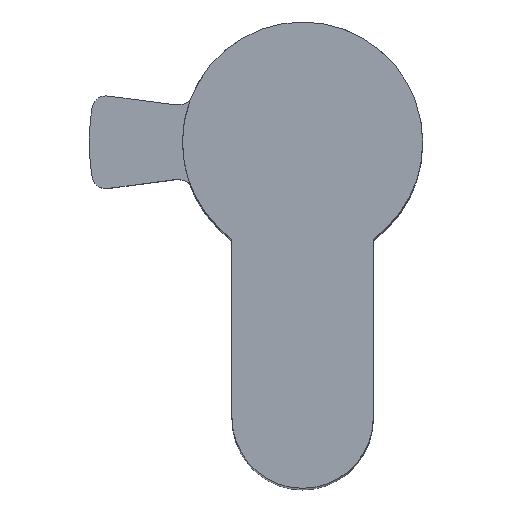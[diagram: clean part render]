
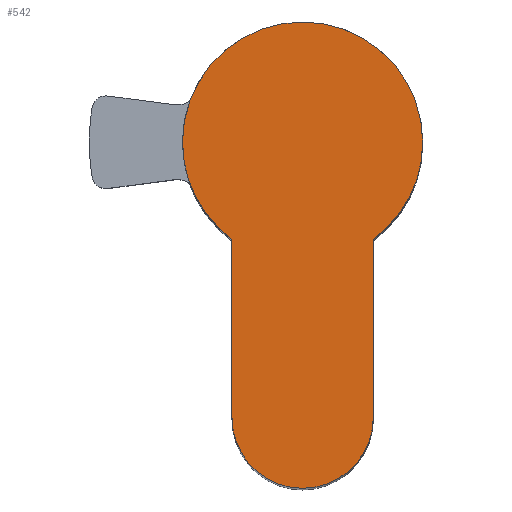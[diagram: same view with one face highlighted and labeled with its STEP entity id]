
A CAD part, top view. The second image highlights one B-rep face of the part: STEP entity #542.
In plain terms, the highlighted planar face has unit normal (0, 0, 1).
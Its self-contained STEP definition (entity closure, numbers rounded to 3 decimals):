
#57 = DIRECTION ( 'NONE',  ( 0., -1., 0. ) ) ;
#94 = CARTESIAN_POINT ( 'NONE',  ( 5., -19.5, 10. ) ) ;
#122 = DIRECTION ( 'NONE',  ( 1., 0., 0. ) ) ;
#158 = CIRCLE ( 'NONE', #562, 8.5 ) ;
#180 = ORIENTED_EDGE ( 'NONE', *, *, #1239, .T. ) ;
#196 = CARTESIAN_POINT ( 'NONE',  ( 0., 0., 10. ) ) ;
#201 = CARTESIAN_POINT ( 'NONE',  ( -8.5, 0., 10. ) ) ;
#226 = DIRECTION ( 'NONE',  ( 0., 0., 1. ) ) ;
#242 = EDGE_CURVE ( 'NONE', #374, #1318, #890, .T. ) ;
#297 = VERTEX_POINT ( 'NONE', #201 ) ;
#333 = CARTESIAN_POINT ( 'NONE',  ( 5., -6.874, 10. ) ) ;
#347 = CARTESIAN_POINT ( 'NONE',  ( 5., -19.5, 10. ) ) ;
#364 = EDGE_CURVE ( 'NONE', #942, #393, #739, .T. ) ;
#374 = VERTEX_POINT ( 'NONE', #1419 ) ;
#393 = VERTEX_POINT ( 'NONE', #1309 ) ;
#428 = ORIENTED_EDGE ( 'NONE', *, *, #364, .T. ) ;
#451 = ORIENTED_EDGE ( 'NONE', *, *, #242, .T. ) ;
#468 = AXIS2_PLACEMENT_3D ( 'NONE', #1334, #226, #1560 ) ;
#488 = VERTEX_POINT ( 'NONE', #1443 ) ;
#495 = VECTOR ( 'NONE', #1295, 1000. ) ;
#496 = DIRECTION ( 'NONE',  ( 1., 0., 0. ) ) ;
#527 = EDGE_CURVE ( 'NONE', #297, #488, #158, .T. ) ;
#542 = ADVANCED_FACE ( 'NONE', ( #865 ), #747, .T. ) ;
#562 = AXIS2_PLACEMENT_3D ( 'NONE', #985, #1235, #496 ) ;
#609 = ORIENTED_EDGE ( 'NONE', *, *, #1330, .T. ) ;
#611 = DIRECTION ( 'NONE',  ( 0., 0., 1. ) ) ;
#677 = DIRECTION ( 'NONE',  ( 0., 0., 1. ) ) ;
#739 = CIRCLE ( 'NONE', #468, 8.5 ) ;
#747 = PLANE ( 'NONE',  #944 ) ;
#761 = EDGE_LOOP ( 'NONE', ( #428, #609, #1311, #1400, #451, #180 ) ) ;
#865 = FACE_OUTER_BOUND ( 'NONE', #761, .T. ) ;
#890 = CIRCLE ( 'NONE', #1429, 5. ) ;
#942 = VERTEX_POINT ( 'NONE', #333 ) ;
#944 = AXIS2_PLACEMENT_3D ( 'NONE', #1470, #1221, #969 ) ;
#969 = DIRECTION ( 'NONE',  ( 1., 0., 0. ) ) ;
#975 = AXIS2_PLACEMENT_3D ( 'NONE', #196, #677, #1168 ) ;
#985 = CARTESIAN_POINT ( 'NONE',  ( 0., 0., 10. ) ) ;
#1057 = CIRCLE ( 'NONE', #975, 8.5 ) ;
#1168 = DIRECTION ( 'NONE',  ( 1., 0., 0. ) ) ;
#1221 = DIRECTION ( 'NONE',  ( 0., 0., 1. ) ) ;
#1235 = DIRECTION ( 'NONE',  ( 0., 0., 1. ) ) ;
#1239 = EDGE_CURVE ( 'NONE', #1318, #942, #1302, .T. ) ;
#1251 = LINE ( 'NONE', #1502, #1255 ) ;
#1255 = VECTOR ( 'NONE', #57, 1000. ) ;
#1295 = DIRECTION ( 'NONE',  ( 0., 1., 0. ) ) ;
#1302 = LINE ( 'NONE', #94, #495 ) ;
#1309 = CARTESIAN_POINT ( 'NONE',  ( 8.5, 0., 10. ) ) ;
#1311 = ORIENTED_EDGE ( 'NONE', *, *, #527, .T. ) ;
#1318 = VERTEX_POINT ( 'NONE', #347 ) ;
#1330 = EDGE_CURVE ( 'NONE', #393, #297, #1057, .T. ) ;
#1334 = CARTESIAN_POINT ( 'NONE',  ( 0., 0., 10. ) ) ;
#1337 = CARTESIAN_POINT ( 'NONE',  ( 0., -19.5, 10. ) ) ;
#1400 = ORIENTED_EDGE ( 'NONE', *, *, #1528, .T. ) ;
#1419 = CARTESIAN_POINT ( 'NONE',  ( -5., -19.5, 10. ) ) ;
#1429 = AXIS2_PLACEMENT_3D ( 'NONE', #1337, #611, #122 ) ;
#1443 = CARTESIAN_POINT ( 'NONE',  ( -5., -6.874, 10. ) ) ;
#1470 = CARTESIAN_POINT ( 'NONE',  ( 0., 0., 10. ) ) ;
#1502 = CARTESIAN_POINT ( 'NONE',  ( -5., -6.874, 10. ) ) ;
#1528 = EDGE_CURVE ( 'NONE', #488, #374, #1251, .T. ) ;
#1560 = DIRECTION ( 'NONE',  ( 1., 0., 0. ) ) ;
